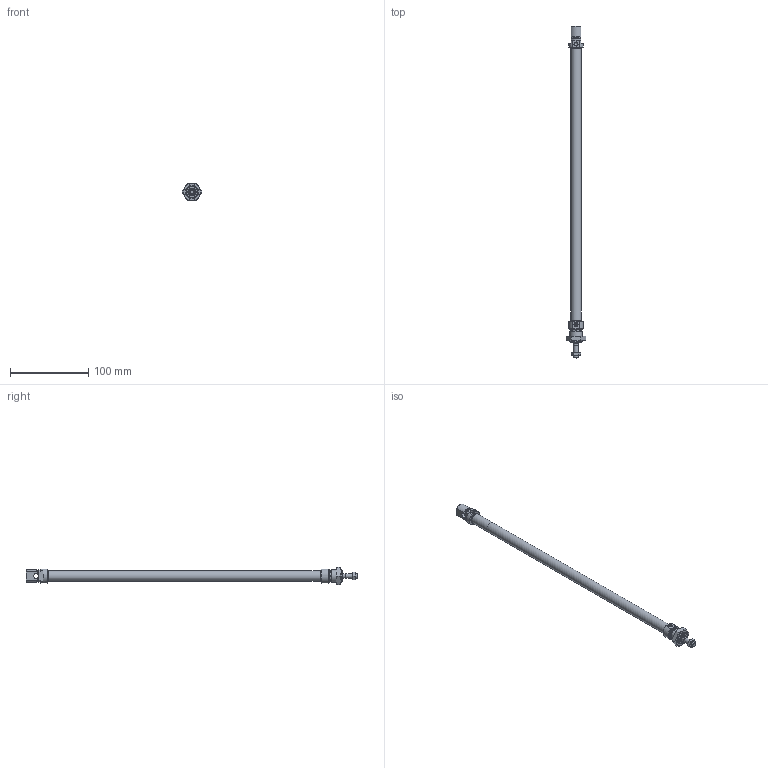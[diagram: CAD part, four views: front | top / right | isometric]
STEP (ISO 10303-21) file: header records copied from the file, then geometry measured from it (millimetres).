
FILE_DESCRIPTION(/* description */ ('Unknown'),/* implementation_level */ '2;1');
FILE_NAME(/* name */ 'RIM 12_320',/* time_stamp */ '2024-08-26T13:37:51+02:00',/* author */ ('Unknown'),/* organization */ ('Unknown'),/* preprocessor_version */ 'ST-DEVELOPER v16.7',/* originating_system */ 'Solid Edge',/* authorisation */ 'Unknown');
FILE_SCHEMA (('AUTOMOTIVE_DESIGN {1 0 10303 214 3 1 1}'));
Length unit declared in the file: millimetre
Products named in the file (7): RIM 12_320; Profilrohr; Kolbenstange; Kit_1; Kit_2; Mutter_1; Mutter_2
Assembly tree (6 placements, depth 2):
  RIM 12_320
    Profilrohr
    Kolbenstange
    Kit_1
    Kit_2
    Mutter_1
    Mutter_2
Bounding box: 25.4 x 424 x 22 mm (x, y, z)
Volume: 34707.5 mm3; surface area: 42315.8 mm2
Topology: 6 solids, 6 shells, 135 faces, 287 edges, 179 vertices
Faces by surface type: plane 55, cone 40, cylinder 33, torus 7
Full cylindrical faces by diameter (mm): 4.11 x1, 4.134 x3, 4.917 x1, 6 x3, 6.5 x1, 7.1 x1, 9 x1, 9.1 x1, 11.1 x1, 11.2 x1, 12 x2, 13.2 x2, 13.27 x1, 13.7 x1, 14.376 x1, 16 x2
Entity records: 4304 total; most frequent: CARTESIAN_POINT 642, DIRECTION 576, ORIENTED_EDGE 446, AXIS2_PLACEMENT_3D 257, EDGE_CURVE 223, FACE_BOUND 213, EDGE_LOOP 212, VERTEX_POINT 170
